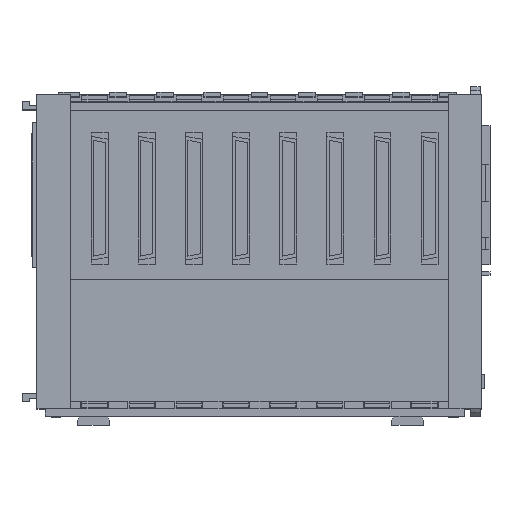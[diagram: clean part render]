
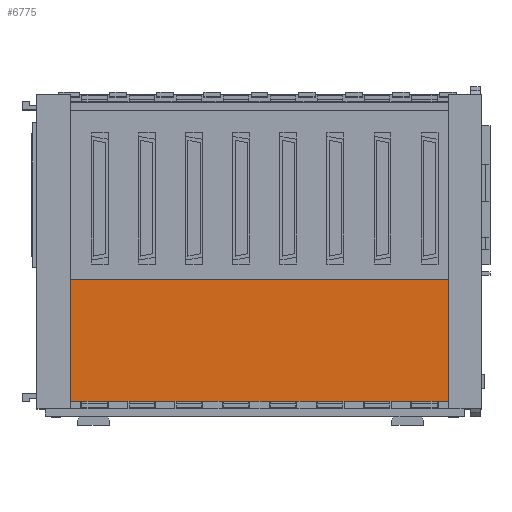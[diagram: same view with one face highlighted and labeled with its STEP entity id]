
A CAD part, top view. The second image highlights one B-rep face of the part: STEP entity #6775.
In plain terms, the highlighted planar face has unit normal (0, 0, 1).
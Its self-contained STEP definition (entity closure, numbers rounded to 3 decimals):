
#6775 = ADVANCED_FACE ( 'NONE', ( #28067 ), #28066, .T. ) ;
#6776 = EDGE_LOOP ( 'NONE', ( #6833, #6837, #6840, #6843 ) ) ;
#6833 = ORIENTED_EDGE ( 'NONE', *, *, #6834, .T. ) ;
#6834 = EDGE_CURVE ( 'NONE', #6835, #6836, #28158, .T. ) ;
#6835 = VERTEX_POINT ( 'NONE', #28154 ) ;
#6836 = VERTEX_POINT ( 'NONE', #28153 ) ;
#6837 = ORIENTED_EDGE ( 'NONE', *, *, #6838, .F. ) ;
#6838 = EDGE_CURVE ( 'NONE', #6839, #6836, #28152, .T. ) ;
#6839 = VERTEX_POINT ( 'NONE', #28148 ) ;
#6840 = ORIENTED_EDGE ( 'NONE', *, *, #6841, .T. ) ;
#6841 = EDGE_CURVE ( 'NONE', #6839, #6842, #28147, .T. ) ;
#6842 = VERTEX_POINT ( 'NONE', #28143 ) ;
#6843 = ORIENTED_EDGE ( 'NONE', *, *, #6844, .T. ) ;
#6844 = EDGE_CURVE ( 'NONE', #6842, #6835, #28142, .T. ) ;
#28062 = DIRECTION ( 'NONE',  ( 1., 0., 0. ) ) ;
#28063 = DIRECTION ( 'NONE',  ( 0., 0., 1. ) ) ;
#28064 = CARTESIAN_POINT ( 'NONE',  ( 13.8, -65.3, 11.5 ) ) ;
#28065 = AXIS2_PLACEMENT_3D ( 'NONE', #28064, #28063, #28062 ) ;
#28066 = PLANE ( 'NONE',  #28065 ) ;
#28067 = FACE_OUTER_BOUND ( 'NONE', #6776, .T. ) ;
#28139 = DIRECTION ( 'NONE',  ( 1., 0., 0. ) ) ;
#28140 = VECTOR ( 'NONE', #28139, 1000. ) ;
#28141 = CARTESIAN_POINT ( 'NONE',  ( 13.8, -65.3, 11.5 ) ) ;
#28142 = LINE ( 'NONE', #28141, #28140 ) ;
#28143 = CARTESIAN_POINT ( 'NONE',  ( 5.1, -65.3, 11.5 ) ) ;
#28144 = DIRECTION ( 'NONE',  ( 0., -1., 0. ) ) ;
#28145 = VECTOR ( 'NONE', #28144, 1000. ) ;
#28146 = CARTESIAN_POINT ( 'NONE',  ( 5.1, 58.7, 11.5 ) ) ;
#28147 = LINE ( 'NONE', #28146, #28145 ) ;
#28148 = CARTESIAN_POINT ( 'NONE',  ( 5.1, -14.8, 11.5 ) ) ;
#28149 = DIRECTION ( 'NONE',  ( 1., 0., 0. ) ) ;
#28150 = VECTOR ( 'NONE', #28149, 1000. ) ;
#28151 = CARTESIAN_POINT ( 'NONE',  ( 5.1, -14.8, 11.5 ) ) ;
#28152 = LINE ( 'NONE', #28151, #28150 ) ;
#28153 = CARTESIAN_POINT ( 'NONE',  ( 174.8, -14.8, 11.5 ) ) ;
#28154 = CARTESIAN_POINT ( 'NONE',  ( 174.8, -65.3, 11.5 ) ) ;
#28155 = DIRECTION ( 'NONE',  ( 0., 1., 0. ) ) ;
#28156 = VECTOR ( 'NONE', #28155, 1000. ) ;
#28157 = CARTESIAN_POINT ( 'NONE',  ( 174.8, -65.3, 11.5 ) ) ;
#28158 = LINE ( 'NONE', #28157, #28156 ) ;
